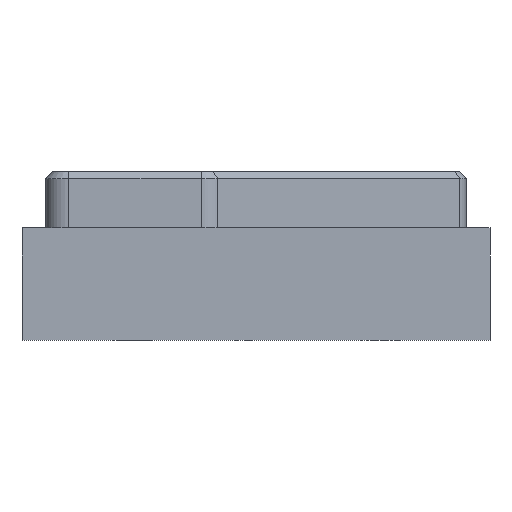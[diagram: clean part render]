
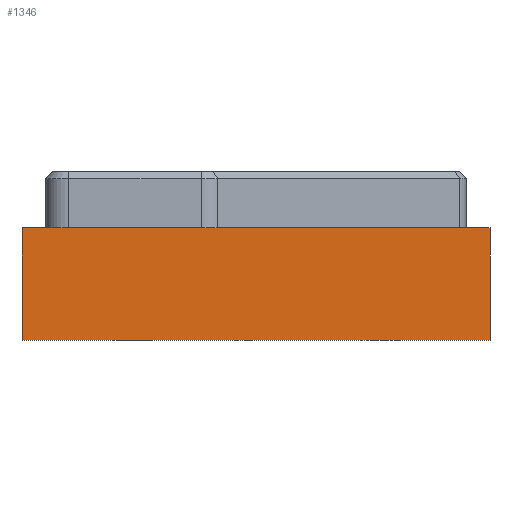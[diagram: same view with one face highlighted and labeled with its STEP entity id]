
A CAD part, front view. The second image highlights one B-rep face of the part: STEP entity #1346.
In plain terms, the highlighted planar face has unit normal (0, -1, 0).
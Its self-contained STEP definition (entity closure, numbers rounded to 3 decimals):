
#33 = DIRECTION ( 'NONE',  ( 1., 0., 0. ) ) ;
#55 = PLANE ( 'NONE',  #971 ) ;
#249 = VECTOR ( 'NONE', #1552, 1000. ) ;
#336 = LINE ( 'NONE', #1514, #249 ) ;
#486 = CARTESIAN_POINT ( 'NONE',  ( -50., -50., -36. ) ) ;
#566 = CARTESIAN_POINT ( 'NONE',  ( -50., -50., -12. ) ) ;
#599 = ORIENTED_EDGE ( 'NONE', *, *, #1291, .T. ) ;
#600 = EDGE_CURVE ( 'NONE', #770, #1197, #985, .T. ) ;
#647 = VECTOR ( 'NONE', #33, 1000. ) ;
#666 = CARTESIAN_POINT ( 'NONE',  ( 50., -50., -12. ) ) ;
#675 = ORIENTED_EDGE ( 'NONE', *, *, #600, .T. ) ;
#747 = ORIENTED_EDGE ( 'NONE', *, *, #1006, .T. ) ;
#757 = CARTESIAN_POINT ( 'NONE',  ( 50., -50., -36. ) ) ;
#770 = VERTEX_POINT ( 'NONE', #1382 ) ;
#880 = DIRECTION ( 'NONE',  ( 0., 0., 1. ) ) ;
#920 = LINE ( 'NONE', #486, #961 ) ;
#961 = VECTOR ( 'NONE', #880, 1000. ) ;
#971 = AXIS2_PLACEMENT_3D ( 'NONE', #1229, #1132, #1349 ) ;
#985 = LINE ( 'NONE', #1167, #647 ) ;
#1006 = EDGE_CURVE ( 'NONE', #1197, #1045, #1626, .T. ) ;
#1039 = EDGE_CURVE ( 'NONE', #770, #1615, #920, .T. ) ;
#1045 = VERTEX_POINT ( 'NONE', #666 ) ;
#1119 = FACE_OUTER_BOUND ( 'NONE', #1477, .T. ) ;
#1132 = DIRECTION ( 'NONE',  ( 0., -1., 0. ) ) ;
#1167 = CARTESIAN_POINT ( 'NONE',  ( -50., -50., -36. ) ) ;
#1197 = VERTEX_POINT ( 'NONE', #1501 ) ;
#1229 = CARTESIAN_POINT ( 'NONE',  ( -50., -50., -36. ) ) ;
#1256 = DIRECTION ( 'NONE',  ( 0., 0., 1. ) ) ;
#1261 = VECTOR ( 'NONE', #1256, 1000. ) ;
#1291 = EDGE_CURVE ( 'NONE', #1045, #1615, #336, .T. ) ;
#1346 = ADVANCED_FACE ( 'NONE', ( #1119 ), #55, .T. ) ;
#1349 = DIRECTION ( 'NONE',  ( 0., 0., -1. ) ) ;
#1382 = CARTESIAN_POINT ( 'NONE',  ( -50., -50., -36. ) ) ;
#1417 = ORIENTED_EDGE ( 'NONE', *, *, #1039, .F. ) ;
#1477 = EDGE_LOOP ( 'NONE', ( #747, #599, #1417, #675 ) ) ;
#1501 = CARTESIAN_POINT ( 'NONE',  ( 50., -50., -36. ) ) ;
#1514 = CARTESIAN_POINT ( 'NONE',  ( -50., -50., -12. ) ) ;
#1552 = DIRECTION ( 'NONE',  ( -1., 0., 0. ) ) ;
#1615 = VERTEX_POINT ( 'NONE', #566 ) ;
#1626 = LINE ( 'NONE', #757, #1261 ) ;
